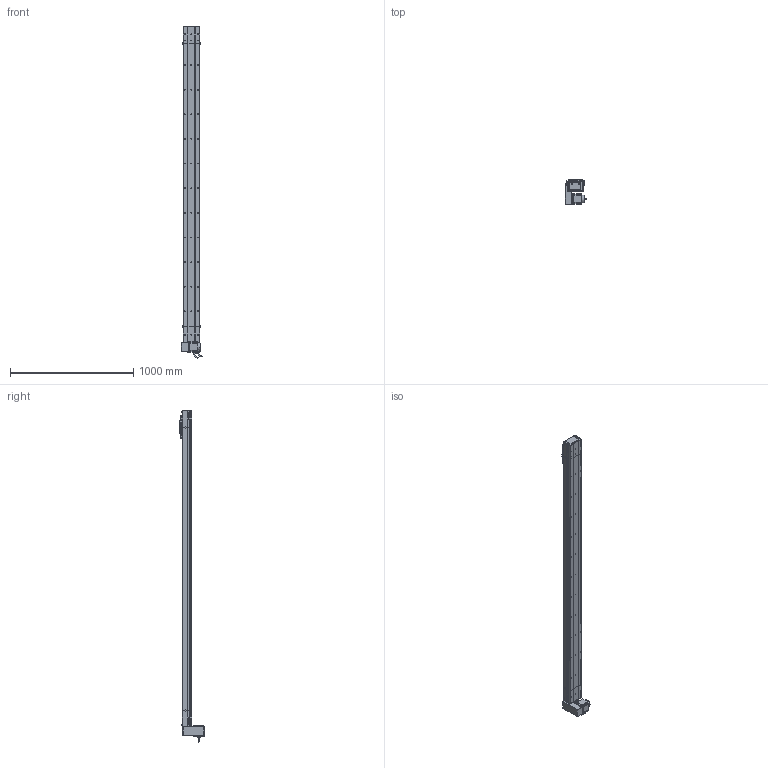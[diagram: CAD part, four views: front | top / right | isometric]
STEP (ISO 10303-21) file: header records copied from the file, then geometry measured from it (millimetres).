
FILE_DESCRIPTION (( 'STEP AP214' ), '1' );
FILE_NAME ('D14 CBH S2300 RU.STEP', '2010-06-30T07:17:00', ( 'Conseil Régional Haute-Normandie' ), ( 'Conseil Régional Haute-Normandie' ), 'SwSTEP 2.0', 'SolidWorks 2010', '' );
FILE_SCHEMA (( 'AUTOMOTIVE_DESIGN' ));
Length unit declared in the file: millimetre
Products named in the file (28): vis CHC M7; corps Head D14 CBH; plaque de bout Head D14 CBH; Head D14 CBH; couvercle Head D14 CBH; Head D14 CBH RU; Conecteur_Default; Conecteur2_Default; codeur GMB 90 70 310; corps GMB 90 70 310; avant GMB 90 70 310; GMB 90 70 310; Support moteur Head D14 CBH; plaque fermeture Head D14 CBH; Vis CHC M8; plaque de maintient CBH D14; corps CBH S2300; course CBH S2300; D14 CBH S2300 RU; corps tail  CBH d14 A; Tail CBH D14 A; couvercle CBH S2300; chariot D14; couvercle tail CBH D14; plaque de bout tail CBH d14; vis CHC M5; chariot supérieur D14; charriot inférieur D14
Assembly tree (51 placements, depth 4):
  D14 CBH S2300 RU
    chariot D14
      vis CHC M5  x4
      chariot supérieur D14
      vis CHC M7  x8
      charriot inférieur D14
    course CBH S2300
      couvercle CBH S2300
      corps CBH S2300
    Head D14 CBH RU
      plaque fermeture Head D14 CBH  x3
      Head D14 CBH
        Vis CHC M8  x2
        vis CHC M7  x4
        couvercle Head D14 CBH
        plaque de maintient CBH D14
        corps Head D14 CBH
        plaque de bout Head D14 CBH
      Support moteur Head D14 CBH
      GMB 90 70 310
        avant GMB 90 70 310
        corps GMB 90 70 310
        Conecteur2_Default
        codeur GMB 90 70 310
        Conecteur_Default
    Tail CBH D14 A
      plaque de bout tail CBH d14
      vis CHC M7  x4
      Vis CHC M8  x2
      plaque de maintient CBH D14
      couvercle tail CBH D14
      corps tail  CBH d14 A
Bounding box: 171.5 x 195.75 x 2695.95 mm (x, y, z)
Volume: 7535051.1 mm3; surface area: 2542214.2 mm2
Topology: 51 solids, 51 shells, 2504 faces, 6492 edges, 4264 vertices
Faces by surface type: plane 1371, bspline 538, cylinder 482, torus 61, cone 48, sphere 4
Entity records: 110893 total; most frequent: CARTESIAN_POINT 58438, ORIENTED_EDGE 11280, DIRECTION 8615, EDGE_CURVE 5640, VERTEX_POINT 3728, VECTOR 3717, LINE 3717, AXIS2_PLACEMENT_3D 2449
